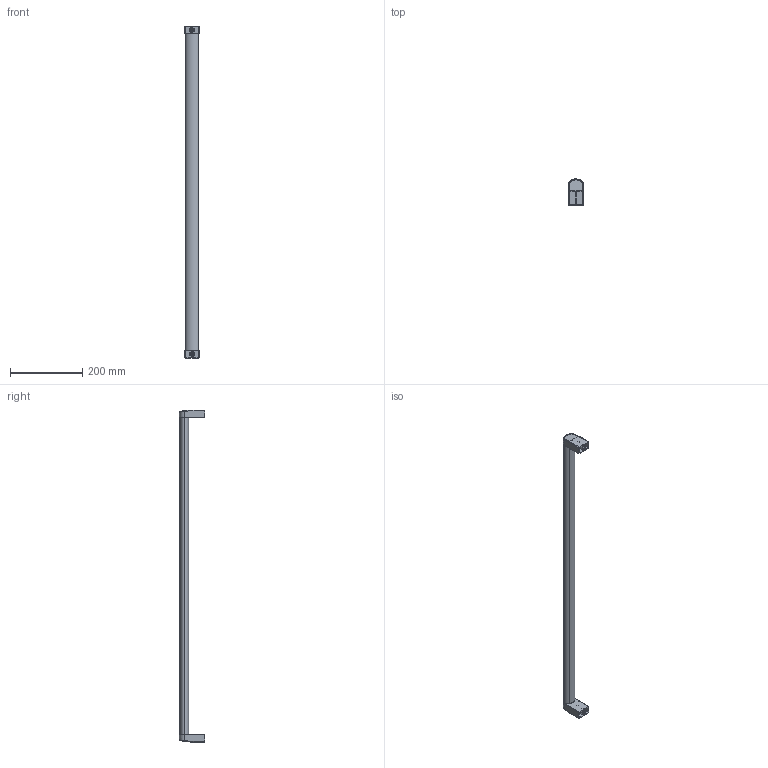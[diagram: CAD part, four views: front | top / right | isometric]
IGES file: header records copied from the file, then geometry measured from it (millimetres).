
Start section: SolidWorks IGES file using analytic representation for surfaces
Bounding box: 40 x 71 x 922 mm (x, y, z)
Surface area: 242429.9 mm2 (no closed solid volume)
Topology: 0 solids, 0 shells, 162 faces, 2486 edges, 2482 vertices
Faces by surface type: bspline 87, revolution 75
